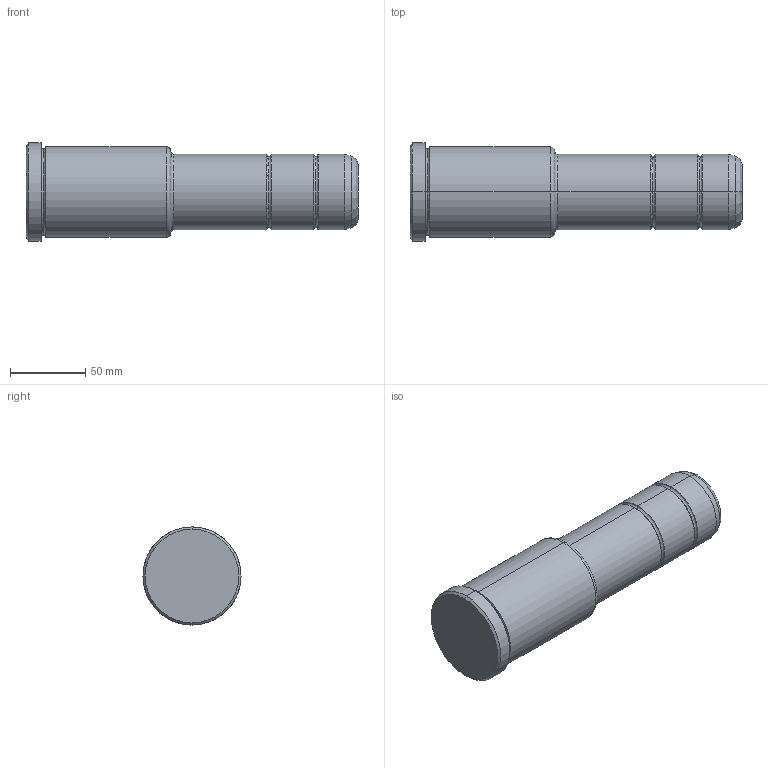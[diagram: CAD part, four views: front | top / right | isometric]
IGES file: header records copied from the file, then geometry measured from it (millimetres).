
Start section: START RECORD GO HERE.
Global section: file name: 351-50X96X220.igs; native system: DASSAULT SYSTEMES CATIA V5 R20 - www.3ds.com; preprocessor: CATIA Version 5 Release 20 ; author: Utente; organization: NB04-ASUS; date: 20211108.195822; units: millimetre
Bounding box: 220 x 65 x 65 mm (x, y, z)
Surface area: 43997.3 mm2 (no closed solid volume)
Topology: 0 solids, 0 shells, 35 faces, 196 edges, 196 vertices
Faces by surface type: revolution 32, plane 3
